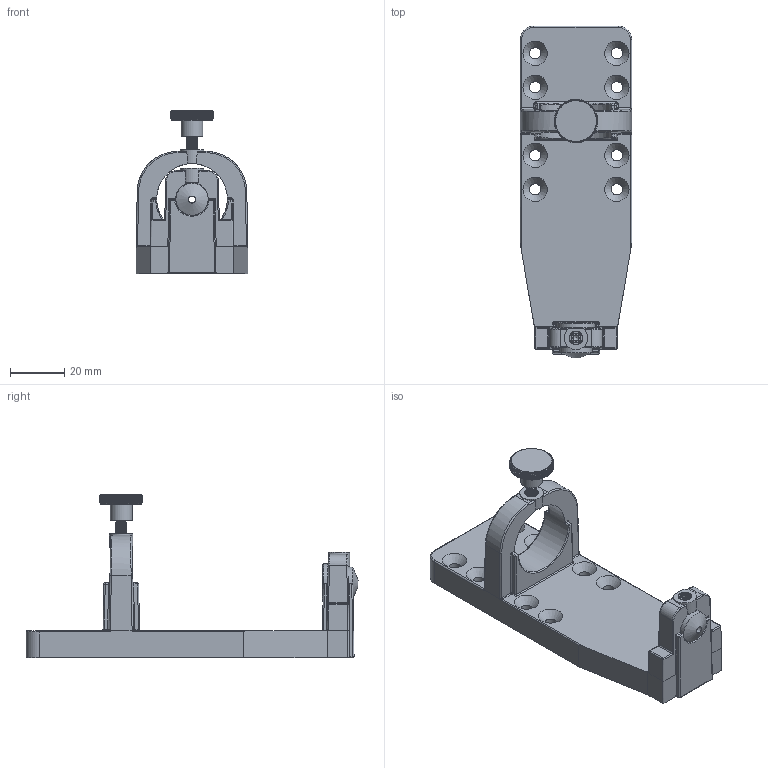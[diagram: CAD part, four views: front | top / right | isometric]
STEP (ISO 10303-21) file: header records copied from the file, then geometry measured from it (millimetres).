
FILE_DESCRIPTION((''),'2;1');
FILE_NAME('C:\1 WIP\Website Data\1328355 30-55ml Syringe Holder.stp','2012-04-23T07:25:25',('patch'),(''),'Autodesk Inventor 2013','Autodesk Inventor 2013','');
FILE_SCHEMA(('AUTOMOTIVE_DESIGN { 1 0 10303 214 1 1 1 1 }'));
Length unit declared in the file: inch
Products named in the file (6): 1328355 30-55ml Syringe Holder; 8902174 Syringe Bracket; 8902174 Threaded Insert; 8902174 Locator Bushing; 8902174 Thumb Screw M4 x 10; 8902174 Cup Point Socket Set Screw M4 X 4
Assembly tree (6 placements, depth 2):
  1328355 30-55ml Syringe Holder
    8902174 Syringe Bracket
    8902174 Threaded Insert  x2
    8902174 Locator Bushing
    8902174 Thumb Screw M4 x 10
    8902174 Cup Point Socket Set Screw M4 X 4
Bounding box: 41 x 122.02 x 60.12 mm (x, y, z)
Volume: 59724.2 mm3; surface area: 20197.3 mm2
Topology: 6 solids, 6 shells, 1031 faces, 2974 edges, 1934 vertices
Faces by surface type: cylinder 485, plane 403, cone 71, bspline 47, sphere 18, torus 7
Full cylindrical faces by diameter (mm): 2.591 x1, 3.242 x2, 3.441 x17, 4 x16, 4.14 x8, 4.496 x2, 5.944 x1, 8 x1, 8.636 x1, 11.862 x1, 11.989 x1, 13.995 x1, 26.01 x1
Entity records: 32907 total; most frequent: CARTESIAN_POINT 11900, ORIENTED_EDGE 4558, DIRECTION 4237, EDGE_CURVE 2279, AXIS2_PLACEMENT_3D 1666, VERTEX_POINT 1545, EDGE_LOOP 978, VECTOR 905
